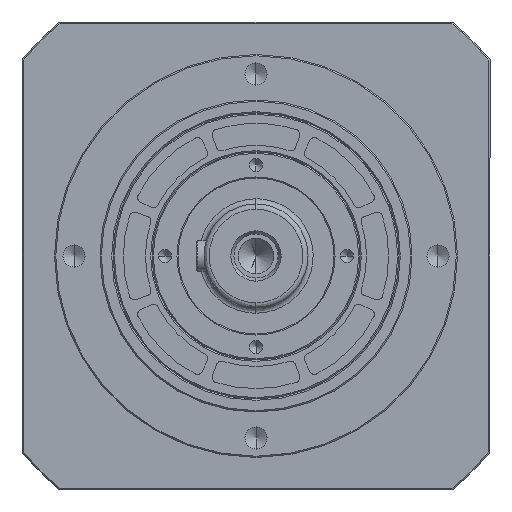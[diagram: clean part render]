
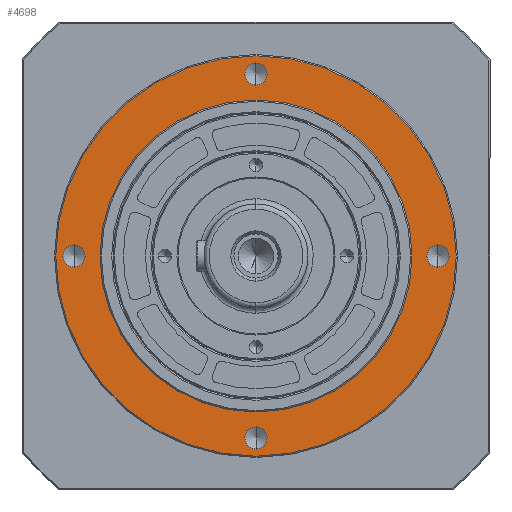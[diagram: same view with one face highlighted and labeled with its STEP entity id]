
A CAD part, left-side view. The second image highlights one B-rep face of the part: STEP entity #4698.
In plain terms, the highlighted planar face has unit normal (-1, 0, 0).
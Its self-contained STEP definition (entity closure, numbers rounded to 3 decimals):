
#168 = CIRCLE ( 'NONE', #418, 4.25 ) ;
#252 = CIRCLE ( 'NONE', #16441, 4.25 ) ;
#258 = DIRECTION ( 'NONE',  ( 0., 0., -1. ) ) ;
#418 = AXIS2_PLACEMENT_3D ( 'NONE', #13500, #9208, #6819 ) ;
#644 = CARTESIAN_POINT ( 'NONE',  ( 15., 0., 77. ) ) ;
#857 = DIRECTION ( 'NONE',  ( 0., 0., 1. ) ) ;
#1073 = DIRECTION ( 'NONE',  ( 0., 0., 1. ) ) ;
#1099 = DIRECTION ( 'NONE',  ( 0., 0., 1. ) ) ;
#1313 = ORIENTED_EDGE ( 'NONE', *, *, #4933, .F. ) ;
#1459 = CIRCLE ( 'NONE', #14938, 60. ) ;
#1818 = EDGE_CURVE ( 'NONE', #17773, #3498, #18504, .T. ) ;
#1969 = CARTESIAN_POINT ( 'NONE',  ( 15., 70., -4.25 ) ) ;
#2000 = CARTESIAN_POINT ( 'NONE',  ( 15., 0., 0. ) ) ;
#2016 = CIRCLE ( 'NONE', #21750, 4.25 ) ;
#2233 = CIRCLE ( 'NONE', #11538, 4.25 ) ;
#2258 = FACE_BOUND ( 'NONE', #19809, .T. ) ;
#2303 = CARTESIAN_POINT ( 'NONE',  ( 15., 60., 0. ) ) ;
#2509 = CARTESIAN_POINT ( 'NONE',  ( 15., 0., 65.75 ) ) ;
#2781 = CIRCLE ( 'NONE', #16603, 4.25 ) ;
#3498 = VERTEX_POINT ( 'NONE', #2509 ) ;
#3831 = PLANE ( 'NONE',  #6926 ) ;
#3881 = CARTESIAN_POINT ( 'NONE',  ( 15., 0., -74.25 ) ) ;
#4131 = EDGE_LOOP ( 'NONE', ( #19980, #19844 ) ) ;
#4214 = ORIENTED_EDGE ( 'NONE', *, *, #15432, .F. ) ;
#4323 = ORIENTED_EDGE ( 'NONE', *, *, #1818, .F. ) ;
#4359 = CARTESIAN_POINT ( 'NONE',  ( 15., 0., 70. ) ) ;
#4698 = ADVANCED_FACE ( 'NONE', ( #15723, #6758, #5706, #2258, #6986, #19743 ), #3831, .F. ) ;
#4933 = EDGE_CURVE ( 'NONE', #7985, #13701, #8076, .T. ) ;
#5273 = CARTESIAN_POINT ( 'NONE',  ( 15., 70., 4.25 ) ) ;
#5320 = EDGE_CURVE ( 'NONE', #17726, #14105, #15367, .T. ) ;
#5436 = DIRECTION ( 'NONE',  ( 0., 0., 1. ) ) ;
#5486 = DIRECTION ( 'NONE',  ( -1., 0., 0. ) ) ;
#5558 = DIRECTION ( 'NONE',  ( 0., 0., 1. ) ) ;
#5706 = FACE_BOUND ( 'NONE', #4131, .T. ) ;
#6059 = AXIS2_PLACEMENT_3D ( 'NONE', #15663, #7103, #5558 ) ;
#6410 = ORIENTED_EDGE ( 'NONE', *, *, #13949, .F. ) ;
#6758 = FACE_OUTER_BOUND ( 'NONE', #16936, .T. ) ;
#6819 = DIRECTION ( 'NONE',  ( 0., 0., 1. ) ) ;
#6926 = AXIS2_PLACEMENT_3D ( 'NONE', #2303, #20799, #9045 ) ;
#6973 = CARTESIAN_POINT ( 'NONE',  ( 15., 0., -70. ) ) ;
#6986 = FACE_BOUND ( 'NONE', #13398, .T. ) ;
#7103 = DIRECTION ( 'NONE',  ( -1., 0., 0. ) ) ;
#7170 = VERTEX_POINT ( 'NONE', #18135 ) ;
#7298 = VERTEX_POINT ( 'NONE', #8443 ) ;
#7426 = CARTESIAN_POINT ( 'NONE',  ( 15., 0., -60. ) ) ;
#7466 = DIRECTION ( 'NONE',  ( -1., 0., 0. ) ) ;
#7519 = EDGE_CURVE ( 'NONE', #7170, #10372, #252, .T. ) ;
#7673 = DIRECTION ( 'NONE',  ( -1., 0., 0. ) ) ;
#7764 = DIRECTION ( 'NONE',  ( -1., 0., 0. ) ) ;
#7777 = AXIS2_PLACEMENT_3D ( 'NONE', #19747, #9622, #21463 ) ;
#7817 = VERTEX_POINT ( 'NONE', #1969 ) ;
#7826 = ORIENTED_EDGE ( 'NONE', *, *, #12834, .F. ) ;
#7985 = VERTEX_POINT ( 'NONE', #7426 ) ;
#8076 = CIRCLE ( 'NONE', #11171, 60. ) ;
#8248 = CARTESIAN_POINT ( 'NONE',  ( 15., 0., -77. ) ) ;
#8426 = ORIENTED_EDGE ( 'NONE', *, *, #9760, .F. ) ;
#8443 = CARTESIAN_POINT ( 'NONE',  ( 15., -70., 4.25 ) ) ;
#8516 = DIRECTION ( 'NONE',  ( -1., 0., 0. ) ) ;
#9018 = AXIS2_PLACEMENT_3D ( 'NONE', #2000, #18724, #258 ) ;
#9045 = DIRECTION ( 'NONE',  ( 0., 0., -1. ) ) ;
#9208 = DIRECTION ( 'NONE',  ( -1., 0., 0. ) ) ;
#9622 = DIRECTION ( 'NONE',  ( 1., 0., 0. ) ) ;
#9760 = EDGE_CURVE ( 'NONE', #14105, #17726, #16801, .T. ) ;
#9838 = EDGE_LOOP ( 'NONE', ( #7826, #1313 ) ) ;
#10372 = VERTEX_POINT ( 'NONE', #3881 ) ;
#10408 = CARTESIAN_POINT ( 'NONE',  ( 15., 70., 0. ) ) ;
#11171 = AXIS2_PLACEMENT_3D ( 'NONE', #11668, #8516, #18715 ) ;
#11191 = CARTESIAN_POINT ( 'NONE',  ( 15., 0., 70. ) ) ;
#11538 = AXIS2_PLACEMENT_3D ( 'NONE', #10408, #20612, #5436 ) ;
#11668 = CARTESIAN_POINT ( 'NONE',  ( 15., 0., 0. ) ) ;
#12156 = EDGE_LOOP ( 'NONE', ( #4323, #19421 ) ) ;
#12353 = EDGE_CURVE ( 'NONE', #3498, #17773, #2781, .T. ) ;
#12598 = DIRECTION ( 'NONE',  ( -1., 0., 0. ) ) ;
#12608 = EDGE_CURVE ( 'NONE', #7298, #16273, #168, .T. ) ;
#12661 = CIRCLE ( 'NONE', #19410, 4.25 ) ;
#12756 = CARTESIAN_POINT ( 'NONE',  ( 15., 0., -70. ) ) ;
#12834 = EDGE_CURVE ( 'NONE', #13701, #7985, #1459, .T. ) ;
#13323 = EDGE_CURVE ( 'NONE', #7817, #16168, #2233, .T. ) ;
#13398 = EDGE_LOOP ( 'NONE', ( #20040, #6410 ) ) ;
#13500 = CARTESIAN_POINT ( 'NONE',  ( 15., -70., 0. ) ) ;
#13691 = ORIENTED_EDGE ( 'NONE', *, *, #5320, .F. ) ;
#13701 = VERTEX_POINT ( 'NONE', #14732 ) ;
#13949 = EDGE_CURVE ( 'NONE', #16273, #7298, #15143, .T. ) ;
#14105 = VERTEX_POINT ( 'NONE', #644 ) ;
#14394 = CARTESIAN_POINT ( 'NONE',  ( 15., 0., 0. ) ) ;
#14732 = CARTESIAN_POINT ( 'NONE',  ( 15., 0., 60. ) ) ;
#14938 = AXIS2_PLACEMENT_3D ( 'NONE', #14394, #7466, #857 ) ;
#15143 = CIRCLE ( 'NONE', #6059, 4.25 ) ;
#15367 = CIRCLE ( 'NONE', #7777, 77. ) ;
#15432 = EDGE_CURVE ( 'NONE', #10372, #7170, #12661, .T. ) ;
#15512 = CARTESIAN_POINT ( 'NONE',  ( 15., -70., -4.25 ) ) ;
#15663 = CARTESIAN_POINT ( 'NONE',  ( 15., -70., 0. ) ) ;
#15723 = FACE_BOUND ( 'NONE', #9838, .T. ) ;
#16168 = VERTEX_POINT ( 'NONE', #5273 ) ;
#16210 = AXIS2_PLACEMENT_3D ( 'NONE', #4359, #7764, #1073 ) ;
#16273 = VERTEX_POINT ( 'NONE', #15512 ) ;
#16441 = AXIS2_PLACEMENT_3D ( 'NONE', #12756, #12598, #21022 ) ;
#16507 = CARTESIAN_POINT ( 'NONE',  ( 15., 0., 74.25 ) ) ;
#16603 = AXIS2_PLACEMENT_3D ( 'NONE', #11191, #18072, #1099 ) ;
#16801 = CIRCLE ( 'NONE', #9018, 77. ) ;
#16936 = EDGE_LOOP ( 'NONE', ( #13691, #8426 ) ) ;
#17726 = VERTEX_POINT ( 'NONE', #8248 ) ;
#17773 = VERTEX_POINT ( 'NONE', #16507 ) ;
#17804 = CARTESIAN_POINT ( 'NONE',  ( 15., 70., 0. ) ) ;
#18072 = DIRECTION ( 'NONE',  ( -1., 0., 0. ) ) ;
#18135 = CARTESIAN_POINT ( 'NONE',  ( 15., 0., -65.75 ) ) ;
#18504 = CIRCLE ( 'NONE', #16210, 4.25 ) ;
#18715 = DIRECTION ( 'NONE',  ( 0., 0., 1. ) ) ;
#18724 = DIRECTION ( 'NONE',  ( 1., 0., 0. ) ) ;
#18866 = EDGE_CURVE ( 'NONE', #16168, #7817, #2016, .T. ) ;
#19100 = DIRECTION ( 'NONE',  ( 0., 0., 1. ) ) ;
#19321 = ORIENTED_EDGE ( 'NONE', *, *, #7519, .F. ) ;
#19410 = AXIS2_PLACEMENT_3D ( 'NONE', #6973, #5486, #19100 ) ;
#19421 = ORIENTED_EDGE ( 'NONE', *, *, #12353, .F. ) ;
#19541 = DIRECTION ( 'NONE',  ( 0., 0., 1. ) ) ;
#19743 = FACE_BOUND ( 'NONE', #12156, .T. ) ;
#19747 = CARTESIAN_POINT ( 'NONE',  ( 15., 0., 0. ) ) ;
#19809 = EDGE_LOOP ( 'NONE', ( #19321, #4214 ) ) ;
#19844 = ORIENTED_EDGE ( 'NONE', *, *, #13323, .F. ) ;
#19980 = ORIENTED_EDGE ( 'NONE', *, *, #18866, .F. ) ;
#20040 = ORIENTED_EDGE ( 'NONE', *, *, #12608, .F. ) ;
#20612 = DIRECTION ( 'NONE',  ( -1., 0., 0. ) ) ;
#20799 = DIRECTION ( 'NONE',  ( 1., 0., 0. ) ) ;
#21022 = DIRECTION ( 'NONE',  ( 0., 0., 1. ) ) ;
#21463 = DIRECTION ( 'NONE',  ( 0., 0., -1. ) ) ;
#21750 = AXIS2_PLACEMENT_3D ( 'NONE', #17804, #7673, #19541 ) ;
